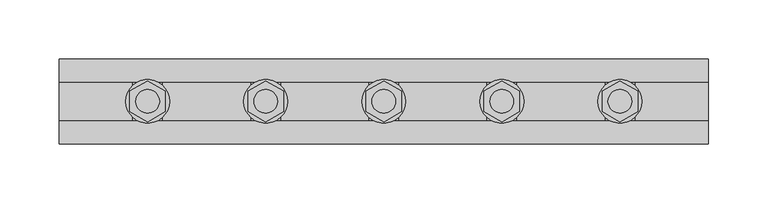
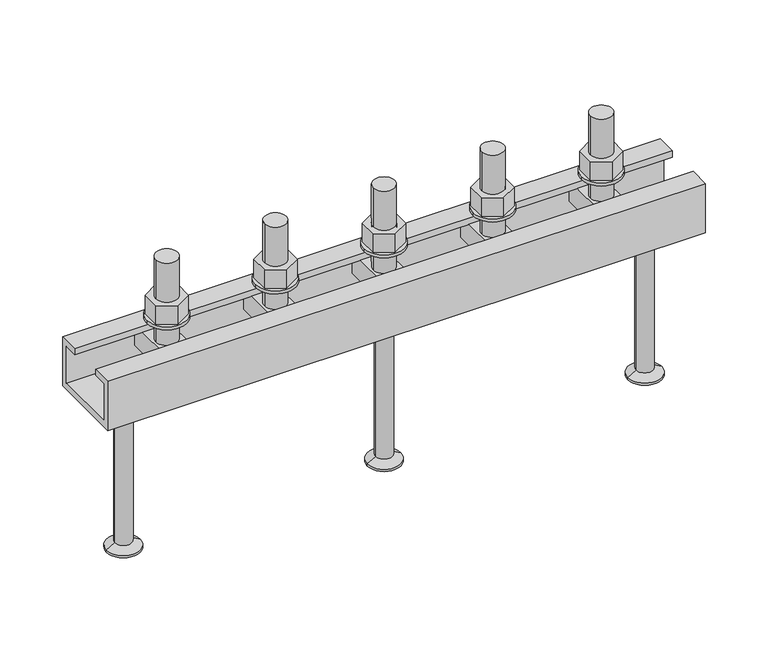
"""IFC4 building model written with IfcOpenShell, lengths in millimetres: fastener geometry, JTA-K JORDAHL® AnchorChannels : JTA-K L=550 mm."""

from ifc_helpers import new_model, si_unit, point, frame, frame_2d, origin, place, context, project, spatial, polyline, circle_curve, trimmed, segment, composite_curve, outline, extrude, source, transform, mapped, element, save
from ifc_brep_helpers import plane_surface, cylinder_surface, revolved_surface, advanced_brep


def fastener_05728250(model_context):
    return source(origin(), model_context, "Body", "SolidModel", [
        extrude(outline(polyline([(375.0, -17.3205081), (360.0, -8.660254), (360.0, 8.660254), (375.0, 17.3205081), (390.0, 8.660254), (390.0, -8.660254), (375.0, -17.3205081)]), holes=[composite_curve([segment(trimmed(circle_curve(frame_2d((375.0, 0.0)), 10.0), [point((365.0, 0.0))], [point((385.0, 0.0))], True, "CARTESIAN"), True, "CONTINUOUS"), segment(trimmed(circle_curve(frame_2d((375.0, 0.0)), 10.0), [point((385.0, 0.0))], [point((365.0, 0.0))], True, "CARTESIAN"), True, "CONTINUOUS")], self_intersect=False)]), frame((0.0, 0.0, 18.0), z_axis=(0.0, 0.0, 1.0), x_axis=(1.0, 0.0, 0.0)), (0.0, 0.0, 1.0), 18.0),
        extrude(outline(composite_curve([segment(trimmed(circle_curve(frame_2d((375.0, 0.0)), 18.5), [point((356.5, 0.0))], [point((393.5, 0.0))], False, "CARTESIAN"), True, "CONTINUOUS"), segment(trimmed(circle_curve(frame_2d((375.0, 0.0)), 18.5), [point((393.5, 0.0))], [point((356.5, 0.0))], False, "CARTESIAN"), True, "CONTINUOUS")], self_intersect=False), holes=[composite_curve([segment(trimmed(circle_curve(frame_2d((375.0, 0.0)), 10.5), [point((364.5, 0.0))], [point((385.5, 0.0))], True, "CARTESIAN"), True, "CONTINUOUS"), segment(trimmed(circle_curve(frame_2d((375.0, 0.0)), 10.5), [point((385.5, 0.0))], [point((364.5, 0.0))], True, "CARTESIAN"), True, "CONTINUOUS")], self_intersect=False)]), frame((0.0, 0.0, 15.0), z_axis=(0.0, 0.0, 1.0), x_axis=(1.0, 0.0, 0.0)), (0.0, 0.0, 1.0), 3.0),
        extrude(outline(polyline([(275.0, -17.3205081), (260.0, -8.660254), (260.0, 8.660254), (275.0, 17.3205081), (290.0, 8.660254), (290.0, -8.660254), (275.0, -17.3205081)]), holes=[composite_curve([segment(trimmed(circle_curve(frame_2d((275.0, 0.0)), 10.0), [point((265.0, 0.0))], [point((285.0, 0.0))], True, "CARTESIAN"), True, "CONTINUOUS"), segment(trimmed(circle_curve(frame_2d((275.0, 0.0)), 10.0), [point((285.0, 0.0))], [point((265.0, 0.0))], True, "CARTESIAN"), True, "CONTINUOUS")], self_intersect=False)]), frame((0.0, 0.0, 18.0), z_axis=(0.0, 0.0, 1.0), x_axis=(1.0, 0.0, 0.0)), (0.0, 0.0, 1.0), 18.0),
        extrude(outline(composite_curve([segment(trimmed(circle_curve(frame_2d((275.0, 0.0)), 18.5), [point((256.5, 0.0))], [point((293.5, 0.0))], False, "CARTESIAN"), True, "CONTINUOUS"), segment(trimmed(circle_curve(frame_2d((275.0, 0.0)), 18.5), [point((293.5, 0.0))], [point((256.5, 0.0))], False, "CARTESIAN"), True, "CONTINUOUS")], self_intersect=False), holes=[composite_curve([segment(trimmed(circle_curve(frame_2d((275.0, 0.0)), 10.5), [point((264.5, 0.0))], [point((285.5, 0.0))], True, "CARTESIAN"), True, "CONTINUOUS"), segment(trimmed(circle_curve(frame_2d((275.0, 0.0)), 10.5), [point((285.5, 0.0))], [point((264.5, 0.0))], True, "CARTESIAN"), True, "CONTINUOUS")], self_intersect=False)]), frame((0.0, 0.0, 15.0), z_axis=(0.0, 0.0, 1.0), x_axis=(1.0, 0.0, 0.0)), (0.0, 0.0, 1.0), 3.0),
        extrude(outline(polyline([(175.0, -17.3205081), (160.0, -8.660254), (160.0, 8.660254), (175.0, 17.3205081), (190.0, 8.660254), (190.0, -8.660254), (175.0, -17.3205081)]), holes=[composite_curve([segment(trimmed(circle_curve(frame_2d((175.0, 0.0)), 10.0), [point((165.0, 0.0))], [point((185.0, 0.0))], True, "CARTESIAN"), True, "CONTINUOUS"), segment(trimmed(circle_curve(frame_2d((175.0, 0.0)), 10.0), [point((185.0, 0.0))], [point((165.0, 0.0))], True, "CARTESIAN"), True, "CONTINUOUS")], self_intersect=False)]), frame((0.0, 0.0, 18.0), z_axis=(0.0, 0.0, 1.0), x_axis=(1.0, 0.0, 0.0)), (0.0, 0.0, 1.0), 18.0),
        extrude(outline(composite_curve([segment(trimmed(circle_curve(frame_2d((175.0, 0.0)), 18.5), [point((156.5, 0.0))], [point((193.5, 0.0))], False, "CARTESIAN"), True, "CONTINUOUS"), segment(trimmed(circle_curve(frame_2d((175.0, 0.0)), 18.5), [point((193.5, 0.0))], [point((156.5, 0.0))], False, "CARTESIAN"), True, "CONTINUOUS")], self_intersect=False), holes=[composite_curve([segment(trimmed(circle_curve(frame_2d((175.0, 0.0)), 10.5), [point((164.5, 0.0))], [point((185.5, 0.0))], True, "CARTESIAN"), True, "CONTINUOUS"), segment(trimmed(circle_curve(frame_2d((175.0, 0.0)), 10.5), [point((185.5, 0.0))], [point((164.5, 0.0))], True, "CARTESIAN"), True, "CONTINUOUS")], self_intersect=False)]), frame((0.0, 0.0, 15.0), z_axis=(0.0, 0.0, 1.0), x_axis=(1.0, 0.0, 0.0)), (0.0, 0.0, 1.0), 3.0),
        advanced_brep(
        [(387.5, -29.0, -6.0), (387.5, -29.0, -26.0), (387.5, 29.0, -26.0), (387.5, 29.0, -6.0), (362.5, -29.0, -6.0), (362.5, 29.0, -6.0), (362.5, 29.0, -26.0), (362.5, -29.0, -26.0), (385.0, 0.0, -6.0), (365.0, 0.0, -6.0), (365.0, 0.0, 74.0), (385.0, 0.0, 74.0)],
        [
            (0, 1),
            (1, 2),
            (2, 3),
            (3, 0),
            (4, 5),
            (5, 6),
            (6, 7),
            (7, 4),
            (3, 5),
            (4, 0),
            (8, 9, circle_curve(frame((375.0, 0.0, -6.0), z_axis=(0.0, 0.0, -1.0), x_axis=(1.0, 0.0, 0.0)), 10.0)),
            (9, 8, circle_curve(frame((375.0, 0.0, -6.0), z_axis=(0.0, 0.0, -1.0), x_axis=(1.0, 0.0, 0.0)), 10.0)),
            (2, 6),
            (1, 7),
            (10, 11, circle_curve(frame((375.0, 0.0, 74.0), z_axis=(0.0, 0.0, 1.0), x_axis=(1.0, 0.0, 0.0)), 10.0)),
            (11, 10, circle_curve(frame((375.0, 0.0, 74.0), z_axis=(0.0, 0.0, 1.0), x_axis=(1.0, 0.0, 0.0)), 10.0)),
            (11, 8),
            (9, 10),
        ],
        [
            plane_surface(frame((387.5, 29.0, -6.0), z_axis=(1.0, 0.0, 0.0), x_axis=(0.0, 1.0, 0.0))),
            plane_surface(frame((362.5, 29.0, -6.0), z_axis=(-1.0, 0.0, 0.0), x_axis=(0.0, -1.0, 0.0))),
            plane_surface(frame((387.5, -29.0, -6.0), z_axis=(0.0, 0.0, 1.0), x_axis=(-1.0, 0.0, 0.0))),
            plane_surface(frame((387.5, 29.0, -6.0), z_axis=(0.0, 1.0, 0.0), x_axis=(-1.0, 0.0, 0.0))),
            plane_surface(frame((387.5, 29.0, -26.0), z_axis=(0.0, 0.0, -1.0), x_axis=(-1.0, 0.0, 0.0))),
            plane_surface(frame((387.5, -29.0, -26.0), z_axis=(0.0, -1.0, 0.0), x_axis=(-1.0, 0.0, 0.0))),
            plane_surface(frame((385.0, 0.0, 74.0), z_axis=(0.0, 0.0, 1.0), x_axis=(0.0, -1.0, 0.0))),
            cylinder_surface(frame((375.0, 0.0, -6.0), z_axis=(0.0, 0.0, 1.0), x_axis=(1.0, 0.0, 0.0)), 10.0),
        ],
        [
            (0, [[1, 2, 3, 4]]),
            (1, [[5, 6, 7, 8]]),
            (2, [[9, -5, 10, -4], [11, 12]]),
            (3, [[13, -6, -9, -3]]),
            (4, [[14, -7, -13, -2]]),
            (5, [[-10, -8, -14, -1]]),
            (6, [[15, 16]]),
            (7, [[17, -12, 18, -16]]),
            (7, [[-18, -11, -17, -15]]),
        ],
    ),
        advanced_brep(
        [(287.5, -29.0, -6.0), (287.5, -29.0, -26.0), (287.5, 29.0, -26.0), (287.5, 29.0, -6.0), (262.5, -29.0, -6.0), (262.5, 29.0, -6.0), (262.5, 29.0, -26.0), (262.5, -29.0, -26.0), (285.0, 0.0, -6.0), (265.0, 0.0, -6.0), (265.0, 0.0, 74.0), (285.0, 0.0, 74.0)],
        [
            (0, 1),
            (1, 2),
            (2, 3),
            (3, 0),
            (4, 5),
            (5, 6),
            (6, 7),
            (7, 4),
            (3, 5),
            (4, 0),
            (8, 9, circle_curve(frame((275.0, 0.0, -6.0), z_axis=(0.0, 0.0, -1.0), x_axis=(1.0, 0.0, 0.0)), 10.0)),
            (9, 8, circle_curve(frame((275.0, 0.0, -6.0), z_axis=(0.0, 0.0, -1.0), x_axis=(1.0, 0.0, 0.0)), 10.0)),
            (2, 6),
            (1, 7),
            (10, 11, circle_curve(frame((275.0, 0.0, 74.0), z_axis=(0.0, 0.0, 1.0), x_axis=(1.0, 0.0, 0.0)), 10.0)),
            (11, 10, circle_curve(frame((275.0, 0.0, 74.0), z_axis=(0.0, 0.0, 1.0), x_axis=(1.0, 0.0, 0.0)), 10.0)),
            (11, 8),
            (9, 10),
        ],
        [
            plane_surface(frame((287.5, 29.0, -6.0), z_axis=(1.0, 0.0, 0.0), x_axis=(0.0, 1.0, 0.0))),
            plane_surface(frame((262.5, 29.0, -6.0), z_axis=(-1.0, 0.0, 0.0), x_axis=(0.0, -1.0, 0.0))),
            plane_surface(frame((287.5, -29.0, -6.0), z_axis=(0.0, 0.0, 1.0), x_axis=(-1.0, 0.0, 0.0))),
            plane_surface(frame((287.5, 29.0, -6.0), z_axis=(0.0, 1.0, 0.0), x_axis=(-1.0, 0.0, 0.0))),
            plane_surface(frame((287.5, 29.0, -26.0), z_axis=(0.0, 0.0, -1.0), x_axis=(-1.0, 0.0, 0.0))),
            plane_surface(frame((287.5, -29.0, -26.0), z_axis=(0.0, -1.0, 0.0), x_axis=(-1.0, 0.0, 0.0))),
            plane_surface(frame((285.0, 0.0, 74.0), z_axis=(0.0, 0.0, 1.0), x_axis=(0.0, -1.0, 0.0))),
            cylinder_surface(frame((275.0, 0.0, -6.0), z_axis=(0.0, 0.0, 1.0), x_axis=(1.0, 0.0, 0.0)), 10.0),
        ],
        [
            (0, [[1, 2, 3, 4]]),
            (1, [[5, 6, 7, 8]]),
            (2, [[9, -5, 10, -4], [11, 12]]),
            (3, [[13, -6, -9, -3]]),
            (4, [[14, -7, -13, -2]]),
            (5, [[-10, -8, -14, -1]]),
            (6, [[15, 16]]),
            (7, [[17, -12, 18, -16]]),
            (7, [[-18, -11, -17, -15]]),
        ],
    ),
        advanced_brep(
        [(187.5, -29.0, -6.0), (187.5, -29.0, -26.0), (187.5, 29.0, -26.0), (187.5, 29.0, -6.0), (162.5, -29.0, -6.0), (162.5, 29.0, -6.0), (162.5, 29.0, -26.0), (162.5, -29.0, -26.0), (185.0, 0.0, -6.0), (165.0, 0.0, -6.0), (165.0, 0.0, 74.0), (185.0, 0.0, 74.0)],
        [
            (0, 1),
            (1, 2),
            (2, 3),
            (3, 0),
            (4, 5),
            (5, 6),
            (6, 7),
            (7, 4),
            (3, 5),
            (4, 0),
            (8, 9, circle_curve(frame((175.0, 0.0, -6.0), z_axis=(0.0, 0.0, -1.0), x_axis=(1.0, 0.0, 0.0)), 10.0)),
            (9, 8, circle_curve(frame((175.0, 0.0, -6.0), z_axis=(0.0, 0.0, -1.0), x_axis=(1.0, 0.0, 0.0)), 10.0)),
            (2, 6),
            (1, 7),
            (10, 11, circle_curve(frame((175.0, 0.0, 74.0), z_axis=(0.0, 0.0, 1.0), x_axis=(1.0, 0.0, 0.0)), 10.0)),
            (11, 10, circle_curve(frame((175.0, 0.0, 74.0), z_axis=(0.0, 0.0, 1.0), x_axis=(1.0, 0.0, 0.0)), 10.0)),
            (11, 8),
            (9, 10),
        ],
        [
            plane_surface(frame((187.5, 29.0, -6.0), z_axis=(1.0, 0.0, 0.0), x_axis=(0.0, 1.0, 0.0))),
            plane_surface(frame((162.5, 29.0, -6.0), z_axis=(-1.0, 0.0, 0.0), x_axis=(0.0, -1.0, 0.0))),
            plane_surface(frame((187.5, -29.0, -6.0), z_axis=(0.0, 0.0, 1.0), x_axis=(-1.0, 0.0, 0.0))),
            plane_surface(frame((187.5, 29.0, -6.0), z_axis=(0.0, 1.0, 0.0), x_axis=(-1.0, 0.0, 0.0))),
            plane_surface(frame((187.5, 29.0, -26.0), z_axis=(0.0, 0.0, -1.0), x_axis=(-1.0, 0.0, 0.0))),
            plane_surface(frame((187.5, -29.0, -26.0), z_axis=(0.0, -1.0, 0.0), x_axis=(-1.0, 0.0, 0.0))),
            plane_surface(frame((185.0, 0.0, 74.0), z_axis=(0.0, 0.0, 1.0), x_axis=(0.0, -1.0, 0.0))),
            cylinder_surface(frame((175.0, 0.0, -6.0), z_axis=(0.0, 0.0, 1.0), x_axis=(1.0, 0.0, 0.0)), 10.0),
        ],
        [
            (0, [[1, 2, 3, 4]]),
            (1, [[5, 6, 7, 8]]),
            (2, [[9, -5, 10, -4], [11, 12]]),
            (3, [[13, -6, -9, -3]]),
            (4, [[14, -7, -13, -2]]),
            (5, [[-10, -8, -14, -1]]),
            (6, [[15, 16]]),
            (7, [[17, -12, 18, -16]]),
            (7, [[-18, -11, -17, -15]]),
        ],
    ),
        advanced_brep(
        [(275.0, 0.0, -48.0), (252.0, 0.0, -48.0), (298.0, 0.0, -48.0), (259.5, 0.0, -195.0), (275.0, 0.0, -195.0), (290.5, 0.0, -195.0), (259.5, 0.0, -193.0), (290.5, 0.0, -193.0), (267.2, 0.0, -188.5544029), (282.8, 0.0, -188.5544029), (267.2, 0.0, -52.0), (282.8, 0.0, -52.0)],
        [
            (0, 1),
            (1, 2, circle_curve(frame((275.0, 0.0, -48.0), z_axis=(0.0, 0.0, 1.0), x_axis=(1.0, 0.0, 0.0)), 23.0)),
            (2, 0),
            (2, 1, circle_curve(frame((275.0, 0.0, -48.0), z_axis=(0.0, 0.0, 1.0), x_axis=(1.0, 0.0, 0.0)), 23.0)),
            (3, 4),
            (4, 5),
            (5, 3, circle_curve(frame((275.0, 0.0, -195.0), z_axis=(0.0, 0.0, -1.0), x_axis=(1.0, 0.0, 0.0)), 15.5)),
            (3, 5, circle_curve(frame((275.0, 0.0, -195.0), z_axis=(0.0, 0.0, -1.0), x_axis=(1.0, 0.0, 0.0)), 15.5)),
            (6, 3),
            (5, 7),
            (7, 6, circle_curve(frame((275.0, 0.0, -193.0), z_axis=(0.0, 0.0, -1.0), x_axis=(1.0, 0.0, 0.0)), 15.5)),
            (6, 7, circle_curve(frame((275.0, 0.0, -193.0), z_axis=(0.0, 0.0, -1.0), x_axis=(1.0, 0.0, 0.0)), 15.5)),
            (8, 6),
            (7, 9),
            (9, 8, circle_curve(frame((275.0, 0.0, -188.5544029), z_axis=(0.0, 0.0, -1.0), x_axis=(1.0, 0.0, 0.0)), 7.8)),
            (8, 9, circle_curve(frame((275.0, 0.0, -188.5544029), z_axis=(0.0, 0.0, -1.0), x_axis=(1.0, 0.0, 0.0)), 7.8)),
            (10, 8),
            (9, 11),
            (11, 10, circle_curve(frame((275.0, 0.0, -52.0), z_axis=(0.0, 0.0, -1.0), x_axis=(1.0, 0.0, 0.0)), 7.8)),
            (10, 11, circle_curve(frame((275.0, 0.0, -52.0), z_axis=(0.0, 0.0, -1.0), x_axis=(1.0, 0.0, 0.0)), 7.8)),
            (1, 10),
            (11, 2),
        ],
        [
            plane_surface(frame((275.0, 0.0, -48.0), z_axis=(0.0, 0.0, 1.0), x_axis=(1.0, 0.0, 0.0))),
            plane_surface(frame((275.0, 0.0, -195.0), z_axis=(0.0, 0.0, -1.0), x_axis=(1.0, 0.0, 0.0))),
            cylinder_surface(frame((275.0, 0.0, 2361.3150031), z_axis=(0.0, 0.0, 1.0), x_axis=(1.0, 0.0, 0.0)), 15.5),
            revolved_surface(polyline([(290.5, 0.0, -193.0), (282.8, 0.0, -188.5544029)]), (275.0, 0.0, 2361.3150031), (0.0, 0.0, 1.0)),
            cylinder_surface(frame((275.0, 0.0, 2361.3150031), z_axis=(0.0, 0.0, 1.0), x_axis=(1.0, 0.0, 0.0)), 7.8),
            revolved_surface(polyline([(282.8, 0.0, -52.0), (298.0, 0.0, -48.0)]), (275.0, 0.0, 2361.3150031), (0.0, 0.0, 1.0)),
        ],
        [
            (0, [[1, 2, 3]]),
            (0, [[-3, 4, -1]]),
            (1, [[5, 6, 7]]),
            (1, [[-6, -5, 8]]),
            (2, [[9, -7, 10, 11]]),
            (2, [[-10, -8, -9, 12]]),
            (3, [[13, -11, 14, 15]]),
            (3, [[-14, -12, -13, 16]]),
            (4, [[17, -15, 18, 19]]),
            (4, [[-18, -16, -17, 20]]),
            (5, [[21, -19, 22, -2]]),
            (5, [[-22, -20, -21, -4]]),
        ],
    ),
        extrude(outline(polyline([(475.0, -17.3205081), (460.0, -8.660254), (460.0, 8.660254), (475.0, 17.3205081), (490.0, 8.660254), (490.0, -8.660254), (475.0, -17.3205081)]), holes=[composite_curve([segment(trimmed(circle_curve(frame_2d((475.0, 0.0)), 10.0), [point((465.0, 0.0))], [point((485.0, 0.0))], True, "CARTESIAN"), True, "CONTINUOUS"), segment(trimmed(circle_curve(frame_2d((475.0, 0.0)), 10.0), [point((485.0, 0.0))], [point((465.0, 0.0))], True, "CARTESIAN"), True, "CONTINUOUS")], self_intersect=False)]), frame((0.0, 0.0, 18.0), z_axis=(0.0, 0.0, 1.0), x_axis=(1.0, 0.0, 0.0)), (0.0, 0.0, 1.0), 18.0),
        extrude(outline(composite_curve([segment(trimmed(circle_curve(frame_2d((475.0, 0.0)), 18.5), [point((456.5, 0.0))], [point((493.5, 0.0))], False, "CARTESIAN"), True, "CONTINUOUS"), segment(trimmed(circle_curve(frame_2d((475.0, 0.0)), 18.5), [point((493.5, 0.0))], [point((456.5, 0.0))], False, "CARTESIAN"), True, "CONTINUOUS")], self_intersect=False), holes=[composite_curve([segment(trimmed(circle_curve(frame_2d((475.0, 0.0)), 10.5), [point((464.5, 0.0))], [point((485.5, 0.0))], True, "CARTESIAN"), True, "CONTINUOUS"), segment(trimmed(circle_curve(frame_2d((475.0, 0.0)), 10.5), [point((485.5, 0.0))], [point((464.5, 0.0))], True, "CARTESIAN"), True, "CONTINUOUS")], self_intersect=False)]), frame((0.0, 0.0, 15.0), z_axis=(0.0, 0.0, 1.0), x_axis=(1.0, 0.0, 0.0)), (0.0, 0.0, 1.0), 3.0),
        extrude(outline(polyline([(75.0, -17.3205081), (60.0, -8.660254), (60.0, 8.660254), (75.0, 17.3205081), (90.0, 8.660254), (90.0, -8.660254), (75.0, -17.3205081)]), holes=[composite_curve([segment(trimmed(circle_curve(frame_2d((75.0, 0.0)), 10.0), [point((65.0, 0.0))], [point((85.0, 0.0))], True, "CARTESIAN"), True, "CONTINUOUS"), segment(trimmed(circle_curve(frame_2d((75.0, 0.0)), 10.0), [point((85.0, 0.0))], [point((65.0, 0.0))], True, "CARTESIAN"), True, "CONTINUOUS")], self_intersect=False)]), frame((0.0, 0.0, 18.0), z_axis=(0.0, 0.0, 1.0), x_axis=(1.0, 0.0, 0.0)), (0.0, 0.0, 1.0), 18.0),
        extrude(outline(composite_curve([segment(trimmed(circle_curve(frame_2d((75.0, 0.0)), 18.5), [point((56.5, 0.0))], [point((93.5, 0.0))], False, "CARTESIAN"), True, "CONTINUOUS"), segment(trimmed(circle_curve(frame_2d((75.0, 0.0)), 18.5), [point((93.5, 0.0))], [point((56.5, 0.0))], False, "CARTESIAN"), True, "CONTINUOUS")], self_intersect=False), holes=[composite_curve([segment(trimmed(circle_curve(frame_2d((75.0, 0.0)), 10.5), [point((64.5, 0.0))], [point((85.5, 0.0))], True, "CARTESIAN"), True, "CONTINUOUS"), segment(trimmed(circle_curve(frame_2d((75.0, 0.0)), 10.5), [point((85.5, 0.0))], [point((64.5, 0.0))], True, "CARTESIAN"), True, "CONTINUOUS")], self_intersect=False)]), frame((0.0, 0.0, 15.0), z_axis=(0.0, 0.0, 1.0), x_axis=(1.0, 0.0, 0.0)), (0.0, 0.0, 1.0), 3.0),
        advanced_brep(
        [(487.5, -29.0, -6.0), (487.5, -29.0, -26.0), (487.5, 29.0, -26.0), (487.5, 29.0, -6.0), (462.5, -29.0, -6.0), (462.5, 29.0, -6.0), (462.5, 29.0, -26.0), (462.5, -29.0, -26.0), (485.0, 0.0, -6.0), (465.0, 0.0, -6.0), (465.0, 0.0, 74.0), (485.0, 0.0, 74.0)],
        [
            (0, 1),
            (1, 2),
            (2, 3),
            (3, 0),
            (4, 5),
            (5, 6),
            (6, 7),
            (7, 4),
            (3, 5),
            (4, 0),
            (8, 9, circle_curve(frame((475.0, 0.0, -6.0), z_axis=(0.0, 0.0, -1.0), x_axis=(1.0, 0.0, 0.0)), 10.0)),
            (9, 8, circle_curve(frame((475.0, 0.0, -6.0), z_axis=(0.0, 0.0, -1.0), x_axis=(1.0, 0.0, 0.0)), 10.0)),
            (2, 6),
            (1, 7),
            (10, 11, circle_curve(frame((475.0, 0.0, 74.0), z_axis=(0.0, 0.0, 1.0), x_axis=(1.0, 0.0, 0.0)), 10.0)),
            (11, 10, circle_curve(frame((475.0, 0.0, 74.0), z_axis=(0.0, 0.0, 1.0), x_axis=(1.0, 0.0, 0.0)), 10.0)),
            (11, 8),
            (9, 10),
        ],
        [
            plane_surface(frame((487.5, 29.0, -6.0), z_axis=(1.0, 0.0, 0.0), x_axis=(0.0, 1.0, 0.0))),
            plane_surface(frame((462.5, 29.0, -6.0), z_axis=(-1.0, 0.0, 0.0), x_axis=(0.0, -1.0, 0.0))),
            plane_surface(frame((487.5, -29.0, -6.0), z_axis=(0.0, 0.0, 1.0), x_axis=(-1.0, 0.0, 0.0))),
            plane_surface(frame((487.5, 29.0, -6.0), z_axis=(0.0, 1.0, 0.0), x_axis=(-1.0, 0.0, 0.0))),
            plane_surface(frame((487.5, 29.0, -26.0), z_axis=(0.0, 0.0, -1.0), x_axis=(-1.0, 0.0, 0.0))),
            plane_surface(frame((487.5, -29.0, -26.0), z_axis=(0.0, -1.0, 0.0), x_axis=(-1.0, 0.0, 0.0))),
            plane_surface(frame((485.0, 0.0, 74.0), z_axis=(0.0, 0.0, 1.0), x_axis=(0.0, -1.0, 0.0))),
            cylinder_surface(frame((475.0, 0.0, -6.0), z_axis=(0.0, 0.0, 1.0), x_axis=(1.0, 0.0, 0.0)), 10.0),
        ],
        [
            (0, [[1, 2, 3, 4]]),
            (1, [[5, 6, 7, 8]]),
            (2, [[9, -5, 10, -4], [11, 12]]),
            (3, [[13, -6, -9, -3]]),
            (4, [[14, -7, -13, -2]]),
            (5, [[-10, -8, -14, -1]]),
            (6, [[15, 16]]),
            (7, [[17, -12, 18, -16]]),
            (7, [[-18, -11, -17, -15]]),
        ],
    ),
        advanced_brep(
        [(87.5, -29.0, -6.0), (87.5, -29.0, -26.0), (87.5, 29.0, -26.0), (87.5, 29.0, -6.0), (62.5, -29.0, -6.0), (62.5, 29.0, -6.0), (62.5, 29.0, -26.0), (62.5, -29.0, -26.0), (85.0, 0.0, -6.0), (65.0, 0.0, -6.0), (65.0, 0.0, 74.0), (85.0, 0.0, 74.0)],
        [
            (0, 1),
            (1, 2),
            (2, 3),
            (3, 0),
            (4, 5),
            (5, 6),
            (6, 7),
            (7, 4),
            (3, 5),
            (4, 0),
            (8, 9, circle_curve(frame((75.0, 0.0, -6.0), z_axis=(0.0, 0.0, -1.0), x_axis=(1.0, 0.0, 0.0)), 10.0)),
            (9, 8, circle_curve(frame((75.0, 0.0, -6.0), z_axis=(0.0, 0.0, -1.0), x_axis=(1.0, 0.0, 0.0)), 10.0)),
            (2, 6),
            (1, 7),
            (10, 11, circle_curve(frame((75.0, 0.0, 74.0), z_axis=(0.0, 0.0, 1.0), x_axis=(1.0, 0.0, 0.0)), 10.0)),
            (11, 10, circle_curve(frame((75.0, 0.0, 74.0), z_axis=(0.0, 0.0, 1.0), x_axis=(1.0, 0.0, 0.0)), 10.0)),
            (11, 8),
            (9, 10),
        ],
        [
            plane_surface(frame((87.5, 29.0, -6.0), z_axis=(1.0, 0.0, 0.0), x_axis=(0.0, 1.0, 0.0))),
            plane_surface(frame((62.5, 29.0, -6.0), z_axis=(-1.0, 0.0, 0.0), x_axis=(0.0, -1.0, 0.0))),
            plane_surface(frame((87.5, -29.0, -6.0), z_axis=(0.0, 0.0, 1.0), x_axis=(-1.0, 0.0, 0.0))),
            plane_surface(frame((87.5, 29.0, -6.0), z_axis=(0.0, 1.0, 0.0), x_axis=(-1.0, 0.0, 0.0))),
            plane_surface(frame((87.5, 29.0, -26.0), z_axis=(0.0, 0.0, -1.0), x_axis=(-1.0, 0.0, 0.0))),
            plane_surface(frame((87.5, -29.0, -26.0), z_axis=(0.0, -1.0, 0.0), x_axis=(-1.0, 0.0, 0.0))),
            plane_surface(frame((85.0, 0.0, 74.0), z_axis=(0.0, 0.0, 1.0), x_axis=(0.0, -1.0, 0.0))),
            cylinder_surface(frame((75.0, 0.0, -6.0), z_axis=(0.0, 0.0, 1.0), x_axis=(1.0, 0.0, 0.0)), 10.0),
        ],
        [
            (0, [[1, 2, 3, 4]]),
            (1, [[5, 6, 7, 8]]),
            (2, [[9, -5, 10, -4], [11, 12]]),
            (3, [[13, -6, -9, -3]]),
            (4, [[14, -7, -13, -2]]),
            (5, [[-10, -8, -14, -1]]),
            (6, [[15, 16]]),
            (7, [[17, -12, 18, -16]]),
            (7, [[-18, -11, -17, -15]]),
        ],
    ),
        advanced_brep(
        [(515.0, 0.0, -48.0), (492.0, 0.0, -48.0), (538.0, 0.0, -48.0), (499.5, 0.0, -195.0), (515.0, 0.0, -195.0), (530.5, 0.0, -195.0), (499.5, 0.0, -193.0), (530.5, 0.0, -193.0), (507.2, 0.0, -188.5544029), (522.8, 0.0, -188.5544029), (507.2, 0.0, -52.0), (522.8, 0.0, -52.0)],
        [
            (0, 1),
            (1, 2, circle_curve(frame((515.0, 0.0, -48.0), z_axis=(0.0, 0.0, 1.0), x_axis=(1.0, 0.0, 0.0)), 23.0)),
            (2, 0),
            (2, 1, circle_curve(frame((515.0, 0.0, -48.0), z_axis=(0.0, 0.0, 1.0), x_axis=(1.0, 0.0, 0.0)), 23.0)),
            (3, 4),
            (4, 5),
            (5, 3, circle_curve(frame((515.0, 0.0, -195.0), z_axis=(0.0, 0.0, -1.0), x_axis=(1.0, 0.0, 0.0)), 15.5)),
            (3, 5, circle_curve(frame((515.0, 0.0, -195.0), z_axis=(0.0, 0.0, -1.0), x_axis=(1.0, 0.0, 0.0)), 15.5)),
            (6, 3),
            (5, 7),
            (7, 6, circle_curve(frame((515.0, 0.0, -193.0), z_axis=(0.0, 0.0, -1.0), x_axis=(1.0, 0.0, 0.0)), 15.5)),
            (6, 7, circle_curve(frame((515.0, 0.0, -193.0), z_axis=(0.0, 0.0, -1.0), x_axis=(1.0, 0.0, 0.0)), 15.5)),
            (8, 6),
            (7, 9),
            (9, 8, circle_curve(frame((515.0, 0.0, -188.5544029), z_axis=(0.0, 0.0, -1.0), x_axis=(1.0, 0.0, 0.0)), 7.8)),
            (8, 9, circle_curve(frame((515.0, 0.0, -188.5544029), z_axis=(0.0, 0.0, -1.0), x_axis=(1.0, 0.0, 0.0)), 7.8)),
            (10, 8),
            (9, 11),
            (11, 10, circle_curve(frame((515.0, 0.0, -52.0), z_axis=(0.0, 0.0, -1.0), x_axis=(1.0, 0.0, 0.0)), 7.8)),
            (10, 11, circle_curve(frame((515.0, 0.0, -52.0), z_axis=(0.0, 0.0, -1.0), x_axis=(1.0, 0.0, 0.0)), 7.8)),
            (1, 10),
            (11, 2),
        ],
        [
            plane_surface(frame((515.0, 0.0, -48.0), z_axis=(0.0, 0.0, 1.0), x_axis=(1.0, 0.0, 0.0))),
            plane_surface(frame((515.0, 0.0, -195.0), z_axis=(0.0, 0.0, -1.0), x_axis=(1.0, 0.0, 0.0))),
            cylinder_surface(frame((515.0, 0.0, 2361.3150031), z_axis=(0.0, 0.0, 1.0), x_axis=(1.0, 0.0, 0.0)), 15.5),
            revolved_surface(polyline([(530.5, 0.0, -193.0), (522.8, 0.0, -188.5544029)]), (515.0, 0.0, 2361.3150031), (0.0, 0.0, 1.0)),
            cylinder_surface(frame((515.0, 0.0, 2361.3150031), z_axis=(0.0, 0.0, 1.0), x_axis=(1.0, 0.0, 0.0)), 7.8),
            revolved_surface(polyline([(522.8, 0.0, -52.0), (538.0, 0.0, -48.0)]), (515.0, 0.0, 2361.3150031), (0.0, 0.0, 1.0)),
        ],
        [
            (0, [[1, 2, 3]]),
            (0, [[-3, 4, -1]]),
            (1, [[5, 6, 7]]),
            (1, [[-6, -5, 8]]),
            (2, [[9, -7, 10, 11]]),
            (2, [[-10, -8, -9, 12]]),
            (3, [[13, -11, 14, 15]]),
            (3, [[-14, -12, -13, 16]]),
            (4, [[17, -15, 18, 19]]),
            (4, [[-18, -16, -17, 20]]),
            (5, [[21, -19, 22, -2]]),
            (5, [[-22, -20, -21, -4]]),
        ],
    ),
        advanced_brep(
        [(35.0, 0.0, -48.0), (12.0, 0.0, -48.0), (58.0, 0.0, -48.0), (19.5, 0.0, -195.0), (35.0, 0.0, -195.0), (50.5, 0.0, -195.0), (19.5, 0.0, -193.0), (50.5, 0.0, -193.0), (27.2, 0.0, -188.5544029), (42.8, 0.0, -188.5544029), (27.2, 0.0, -52.0), (42.8, 0.0, -52.0)],
        [
            (0, 1),
            (1, 2, circle_curve(frame((35.0, 0.0, -48.0), z_axis=(0.0, 0.0, 1.0), x_axis=(1.0, 0.0, 0.0)), 23.0)),
            (2, 0),
            (2, 1, circle_curve(frame((35.0, 0.0, -48.0), z_axis=(0.0, 0.0, 1.0), x_axis=(1.0, 0.0, 0.0)), 23.0)),
            (3, 4),
            (4, 5),
            (5, 3, circle_curve(frame((35.0, 0.0, -195.0), z_axis=(0.0, 0.0, -1.0), x_axis=(1.0, 0.0, 0.0)), 15.5)),
            (3, 5, circle_curve(frame((35.0, 0.0, -195.0), z_axis=(0.0, 0.0, -1.0), x_axis=(1.0, 0.0, 0.0)), 15.5)),
            (6, 3),
            (5, 7),
            (7, 6, circle_curve(frame((35.0, 0.0, -193.0), z_axis=(0.0, 0.0, -1.0), x_axis=(1.0, 0.0, 0.0)), 15.5)),
            (6, 7, circle_curve(frame((35.0, 0.0, -193.0), z_axis=(0.0, 0.0, -1.0), x_axis=(1.0, 0.0, 0.0)), 15.5)),
            (8, 6),
            (7, 9),
            (9, 8, circle_curve(frame((35.0, 0.0, -188.5544029), z_axis=(0.0, 0.0, -1.0), x_axis=(1.0, 0.0, 0.0)), 7.8)),
            (8, 9, circle_curve(frame((35.0, 0.0, -188.5544029), z_axis=(0.0, 0.0, -1.0), x_axis=(1.0, 0.0, 0.0)), 7.8)),
            (10, 8),
            (9, 11),
            (11, 10, circle_curve(frame((35.0, 0.0, -52.0), z_axis=(0.0, 0.0, -1.0), x_axis=(1.0, 0.0, 0.0)), 7.8)),
            (10, 11, circle_curve(frame((35.0, 0.0, -52.0), z_axis=(0.0, 0.0, -1.0), x_axis=(1.0, 0.0, 0.0)), 7.8)),
            (1, 10),
            (11, 2),
        ],
        [
            plane_surface(frame((35.0, 0.0, -48.0), z_axis=(0.0, 0.0, 1.0), x_axis=(1.0, 0.0, 0.0))),
            plane_surface(frame((35.0, 0.0, -195.0), z_axis=(0.0, 0.0, -1.0), x_axis=(1.0, 0.0, 0.0))),
            cylinder_surface(frame((35.0, 0.0, 2361.3150031), z_axis=(0.0, 0.0, 1.0), x_axis=(1.0, 0.0, 0.0)), 15.5),
            revolved_surface(polyline([(50.5, 0.0, -193.0), (42.8, 0.0, -188.5544029)]), (35.0, 0.0, 2361.3150031), (0.0, 0.0, 1.0)),
            cylinder_surface(frame((35.0, 0.0, 2361.3150031), z_axis=(0.0, 0.0, 1.0), x_axis=(1.0, 0.0, 0.0)), 7.8),
            revolved_surface(polyline([(42.8, 0.0, -52.0), (58.0, 0.0, -48.0)]), (35.0, 0.0, 2361.3150031), (0.0, 0.0, 1.0)),
        ],
        [
            (0, [[1, 2, 3]]),
            (0, [[-3, 4, -1]]),
            (1, [[5, 6, 7]]),
            (1, [[-6, -5, 8]]),
            (2, [[9, -7, 10, 11]]),
            (2, [[-10, -8, -9, 12]]),
            (3, [[13, -11, 14, 15]]),
            (3, [[-14, -12, -13, 16]]),
            (4, [[17, -15, 18, 19]]),
            (4, [[-18, -16, -17, 20]]),
            (5, [[21, -19, 22, -2]]),
            (5, [[-22, -20, -21, -4]]),
        ],
    ),
        extrude(outline(polyline([(-36.0, 0.0), (-16.5, 0.0), (-16.5, -6.0), (-30.0, -6.0), (-30.0, -42.0), (30.0, -42.0), (30.0, -6.0), (16.5, -6.0), (16.5, 0.0), (36.0, 0.0), (36.0, -48.0), (-36.0, -48.0), (-36.0, 0.0)])), frame((0.0, 0.0, 0.0), z_axis=(1.0, 0.0, 0.0), x_axis=(0.0, 1.0, 0.0)), (0.0, 0.0, 1.0), 550.0),
    ])


if __name__ == "__main__":
    model = new_model("IFC4")
    model_context = context("Model", 3, world=origin())
    ifc_project = project(units=[si_unit("LENGTHUNIT", "METRE", prefix="MILLI")], contexts=[model_context])
    site = spatial("IfcSite", under=ifc_project)
    building = spatial("IfcBuilding", under=site)
    placement = place(None, origin())
    fastener_shape = fastener_05728250(model_context)
    element("IfcFastener", 1, ObjectType="JTA-K JORDAHL® AnchorChannels : JTA-K L=550 mm", at=placement, inside=building, context=model_context, shape_type="MappedRepresentation", body=[
        mapped(fastener_shape, transform((0.0, 0.0, 0.0), x_axis=(1.0, 0.0, 0.0), y_axis=(0.0, 1.0, 0.0), z_axis=(0.0, 0.0, 1.0))),
    ])
    save(model, "model.ifc")
